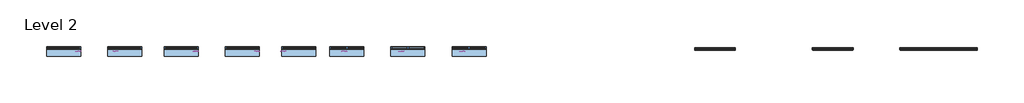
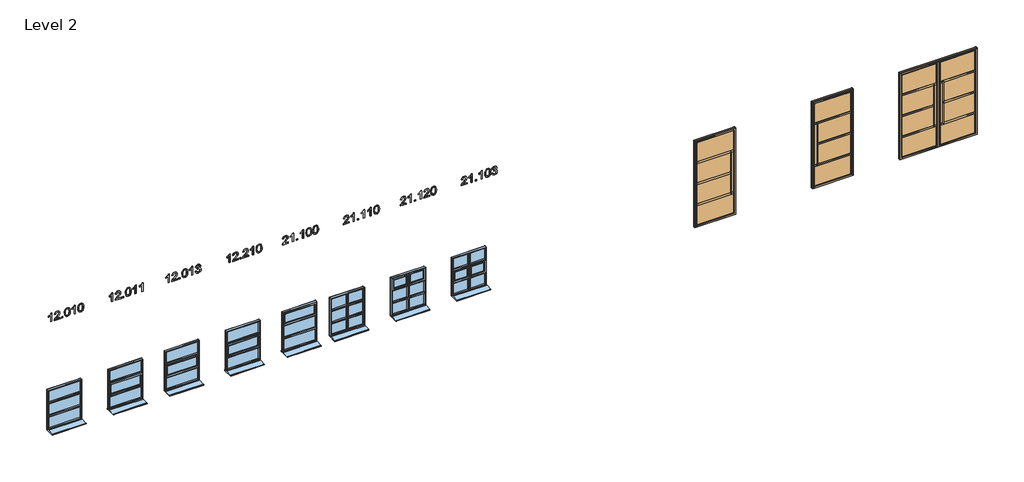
# One storey: 8 proxies, 8 windows, 3 doors.
"""IFC4 building model written with IfcOpenShell, lengths in millimetres."""

from ifc_helpers import new_model, si_unit, frame, origin, place, context, project, spatial, polyline, outline, extrude, transform, mapped, element, save
from components import double_door_94a0a6c9, lefthung_39af8336, right_hung_7c5ced86, standard_2_3150987d, standard_2_8fc163e1, standard_2_56b7443b, standard_2_651a060c, standard_2_2b1a771f, standard_2_61d9b5e6

model = new_model("IFC4")

# Units and contexts
model_context = context("Model", 3, world=origin())
ifc_project = project(units=[si_unit("LENGTHUNIT", "METRE", prefix="MILLI")], contexts=[model_context])

# Site, building, storey
site = spatial("IfcSite", under=ifc_project)
building = spatial("IfcBuilding", under=site)
storey = spatial("IfcBuildingStorey", under=building, Name="Level 2", Elevation=3000.0)

# Proxies
placement = place(None, origin())
element("IfcBuildingElementProxy", 1, Name="200mm Arial", ObjectType="200mm Arial", at=placement, inside=storey, context=model_context, shape_type="SweptSolid", body=[
    extrude(outline(polyline([(5954.6392597, -171154.3903213), (6155.55188, -171154.3903213), (6155.55188, -171170.5771291), (6142.3939673, -171179.4492165), (6128.8191217, -171192.9198289), (6105.3237249, -171229.7325539), (6081.5830735, -171229.7325539), (6094.2627396, -171203.2941012), (6111.2098368, -171179.5043988), (5954.6392597, -171179.5043988), (5954.6392597, -171154.3903213)])), frame((0.0, 24202.6264647, 0.0), z_axis=(0.0, 1.0, 0.0), x_axis=(0.0, 0.0, 1.0)), (0.0, 0.0, 1.0), 10.0),
    extrude(outline(polyline([(5979.7533372, -170966.0347398), (5979.7533372, -171064.6761654), (5992.5311052, -171053.3454), (6016.6886895, -171024.4544006), (6051.0979188, -170988.4755415), (6075.721487, -170973.6376343), (6099.5357149, -170969.1739995), (6121.4369563, -170973.3126719), (6139.4631741, -170985.7286893), (6151.5297035, -171005.2448291), (6155.55188, -171030.6838691), (6151.9343737, -171055.938968), (6141.0818548, -171075.4918961), (6123.3376799, -171088.6559401), (6099.0452055, -171094.7443872), (6095.9059458, -171069.6303096), (6110.3391828, -171066.9141142), (6121.265278, -171059.0598336), (6128.1446714, -171046.8890709), (6130.4378025, -171031.2234293), (6128.0894891, -171016.3058144), (6121.0445488, -171004.5151965), (6110.5905688, -170996.8448569), (6098.0151359, -170994.288077), (6083.9865692, -170996.998141), (6069.565595, -171005.1283331), (6027.7251494, -171048.4893576), (5998.6134208, -171079.9310055), (5971.9542389, -171095.1858455), (5954.6392597, -171097.8836468), (5954.6392597, -170966.0347398), (5979.7533372, -170966.0347398)])), frame((0.0, 24202.6264647, 0.0), z_axis=(0.0, 1.0, 0.0), x_axis=(0.0, 0.0, 1.0)), (0.0, 0.0, 1.0), 10.0),
    extrude(outline(polyline([(-170903.2495459, 24202.6264647), (-170928.3636235, 24202.6264647), (-170928.3636235, 24212.6264647), (-170903.2495459, 24212.6264647), (-170903.2495459, 24202.6264647)])), frame((0.0, 0.0, 5954.6392597), z_axis=(0.0, 0.0, 1.0), x_axis=(1.0, 0.0, 0.0)), (0.0, 0.0, 1.0), 25.1140775),
    extrude(outline(polyline([(6053.4768891, -170862.4391699), (6004.6098974, -170857.4359748), (5985.7590108, -170851.1819809), (5970.6298637, -170842.4263894), (5956.2824659, -170822.6098126), (5951.5, -170796.5147164), (5954.2529836, -170776.2137616), (5962.5119344, -170759.7510423), (5976.3688229, -170747.0161939), (5995.9156196, -170737.8988518), (6021.5018123, -170732.4174101), (6053.4768891, -170730.5902629), (6100.6884118, -170735.1519996), (6130.413277, -170746.9242234), (6141.1738253, -170755.5939758), (6149.0771569, -170767.1822587), (6153.9331992, -170781.0391471), (6155.55188, -170796.5147164), (6152.8172905, -170816.7053066), (6144.613522, -170833.1312377), (6130.8118158, -170845.8844802), (6111.2834132, -170855.0570046), (6085.6359068, -170860.5936286), (6053.4768891, -170862.4391699)]), holes=[polyline([(6053.52594, -170837.3250924), (6092.5214315, -170834.2839346), (6116.9978469, -170825.1604611), (6127.0778136, -170812.5298459), (6130.4378025, -170796.809022), (6126.6240924, -170780.2052813), (6115.1829624, -170767.0841568), (6092.1412868, -170758.5492945), (6053.52594, -170755.7043404), (6014.0828587, -170758.6473964), (5991.20673, -170767.4765642), (5980.2622407, -170780.6222142), (5976.6140775, -170796.5147164), (5980.2499779, -170812.4072186), (5991.1576791, -170825.5528686), (6014.0215451, -170834.3820364), (6053.52594, -170837.3250924)])]), frame((0.0, 24202.6264647, 0.0), z_axis=(0.0, 1.0, 0.0), x_axis=(0.0, 0.0, 1.0)), (0.0, 0.0, 1.0), 10.0),
    extrude(outline(polyline([(5954.6392597, -170614.4376543), (6155.55188, -170614.4376543), (6155.55188, -170630.624462), (6142.3939673, -170639.4965495), (6128.8191217, -170652.9671619), (6105.3237249, -170689.7798869), (6081.5830735, -170689.7798869), (6094.2627396, -170663.3414341), (6111.2098368, -170639.5517318), (5954.6392597, -170639.5517318), (5954.6392597, -170614.4376543)])), frame((0.0, 24202.6264647, 0.0), z_axis=(0.0, 1.0, 0.0), x_axis=(0.0, 0.0, 1.0)), (0.0, 0.0, 1.0), 10.0),
    extrude(outline(polyline([(6053.4768891, -170554.7917201), (6004.6098974, -170549.788525), (5985.7590108, -170543.534531), (5970.6298637, -170534.7789396), (5956.2824659, -170514.9623628), (5951.5, -170488.8672666), (5954.2529836, -170468.5663118), (5962.5119344, -170452.1035925), (5976.3688229, -170439.3687441), (5995.9156196, -170430.251402), (6021.5018123, -170424.7699603), (6053.4768891, -170422.942813), (6100.6884118, -170427.5045498), (6130.413277, -170439.2767736), (6141.1738253, -170447.946526), (6149.0771569, -170459.5348088), (6153.9331992, -170473.3916973), (6155.55188, -170488.8672666), (6152.8172905, -170509.0578567), (6144.613522, -170525.4837878), (6130.8118158, -170538.2370303), (6111.2834132, -170547.4095547), (6085.6359068, -170552.9461788), (6053.4768891, -170554.7917201)]), holes=[polyline([(6053.52594, -170529.6776426), (6092.5214315, -170526.6364847), (6116.9978469, -170517.5130113), (6127.0778136, -170504.8823961), (6130.4378025, -170489.1615722), (6126.6240924, -170472.5578314), (6115.1829624, -170459.436707), (6092.1412868, -170450.9018447), (6053.52594, -170448.0568906), (6014.0828587, -170450.9999465), (5991.20673, -170459.8291144), (5980.2622407, -170472.9747644), (5976.6140775, -170488.8672666), (5980.2499779, -170504.7597688), (5991.1576791, -170517.9054187), (6014.0215451, -170526.7345866), (6053.52594, -170529.6776426)])]), frame((0.0, 24202.6264647, 0.0), z_axis=(0.0, 1.0, 0.0), x_axis=(0.0, 0.0, 1.0)), (0.0, 0.0, 1.0), 10.0),
])
element("IfcBuildingElementProxy", 2, Name="200mm Arial", ObjectType="200mm Arial", at=placement, inside=storey, context=model_context, shape_type="SweptSolid", body=[
    extrude(outline(polyline([(5954.6392597, -169754.3903213), (6155.55188, -169754.3903213), (6155.55188, -169770.5771291), (6142.3939673, -169779.4492165), (6128.8191217, -169792.9198289), (6105.3237249, -169829.7325539), (6081.5830735, -169829.7325539), (6094.2627396, -169803.2941012), (6111.2098368, -169779.5043988), (5954.6392597, -169779.5043988), (5954.6392597, -169754.3903213)])), frame((0.0, 24202.6264647, 0.0), z_axis=(0.0, 1.0, 0.0), x_axis=(0.0, 0.0, 1.0)), (0.0, 0.0, 1.0), 10.0),
    extrude(outline(polyline([(5979.7533372, -169566.0347398), (5979.7533372, -169664.6761654), (5992.5311052, -169653.3454), (6016.6886895, -169624.4544006), (6051.0979188, -169588.4755415), (6075.721487, -169573.6376343), (6099.5357149, -169569.1739995), (6121.4369563, -169573.3126719), (6139.4631741, -169585.7286893), (6151.5297035, -169605.2448291), (6155.55188, -169630.6838691), (6151.9343737, -169655.938968), (6141.0818548, -169675.4918961), (6123.3376799, -169688.6559401), (6099.0452055, -169694.7443872), (6095.9059458, -169669.6303096), (6110.3391828, -169666.9141142), (6121.265278, -169659.0598336), (6128.1446714, -169646.8890709), (6130.4378025, -169631.2234293), (6128.0894891, -169616.3058144), (6121.0445488, -169604.5151965), (6110.5905688, -169596.8448569), (6098.0151359, -169594.288077), (6083.9865692, -169596.998141), (6069.565595, -169605.1283331), (6027.7251494, -169648.4893576), (5998.6134208, -169679.9310055), (5971.9542389, -169695.1858455), (5954.6392597, -169697.8836468), (5954.6392597, -169566.0347398), (5979.7533372, -169566.0347398)])), frame((0.0, 24202.6264647, 0.0), z_axis=(0.0, 1.0, 0.0), x_axis=(0.0, 0.0, 1.0)), (0.0, 0.0, 1.0), 10.0),
    extrude(outline(polyline([(-169503.2495459, 24202.6264647), (-169528.3636235, 24202.6264647), (-169528.3636235, 24212.6264647), (-169503.2495459, 24212.6264647), (-169503.2495459, 24202.6264647)])), frame((0.0, 0.0, 5954.6392597), z_axis=(0.0, 0.0, 1.0), x_axis=(1.0, 0.0, 0.0)), (0.0, 0.0, 1.0), 25.1140775),
    extrude(outline(polyline([(6053.4768891, -169462.4391699), (6004.6098974, -169457.4359748), (5985.7590108, -169451.1819809), (5970.6298637, -169442.4263894), (5956.2824659, -169422.6098126), (5951.5, -169396.5147164), (5954.2529836, -169376.2137616), (5962.5119344, -169359.7510423), (5976.3688229, -169347.0161939), (5995.9156196, -169337.8988518), (6021.5018123, -169332.4174101), (6053.4768891, -169330.5902629), (6100.6884118, -169335.1519996), (6130.413277, -169346.9242234), (6141.1738253, -169355.5939758), (6149.0771569, -169367.1822587), (6153.9331992, -169381.0391471), (6155.55188, -169396.5147164), (6152.8172905, -169416.7053066), (6144.613522, -169433.1312377), (6130.8118158, -169445.8844802), (6111.2834132, -169455.0570046), (6085.6359068, -169460.5936286), (6053.4768891, -169462.4391699)]), holes=[polyline([(6053.52594, -169437.3250924), (6092.5214315, -169434.2839346), (6116.9978469, -169425.1604611), (6127.0778136, -169412.5298459), (6130.4378025, -169396.809022), (6126.6240924, -169380.2052813), (6115.1829624, -169367.0841568), (6092.1412868, -169358.5492945), (6053.52594, -169355.7043404), (6014.0828587, -169358.6473964), (5991.20673, -169367.4765642), (5980.2622407, -169380.6222142), (5976.6140775, -169396.5147164), (5980.2499779, -169412.4072186), (5991.1576791, -169425.5528686), (6014.0215451, -169434.3820364), (6053.52594, -169437.3250924)])]), frame((0.0, 24202.6264647, 0.0), z_axis=(0.0, 1.0, 0.0), x_axis=(0.0, 0.0, 1.0)), (0.0, 0.0, 1.0), 10.0),
    extrude(outline(polyline([(5954.6392597, -169214.4376543), (6155.55188, -169214.4376543), (6155.55188, -169230.624462), (6142.3939673, -169239.4965495), (6128.8191217, -169252.9671619), (6105.3237249, -169289.7798869), (6081.5830735, -169289.7798869), (6094.2627396, -169263.3414341), (6111.2098368, -169239.5517318), (5954.6392597, -169239.5517318), (5954.6392597, -169214.4376543)])), frame((0.0, 24202.6264647, 0.0), z_axis=(0.0, 1.0, 0.0), x_axis=(0.0, 0.0, 1.0)), (0.0, 0.0, 1.0), 10.0),
    extrude(outline(polyline([(5954.6392597, -169060.6139293), (6155.55188, -169060.6139293), (6155.55188, -169076.8007371), (6142.3939673, -169085.6728246), (6128.8191217, -169099.143437), (6105.3237249, -169135.9561619), (6081.5830735, -169135.9561619), (6094.2627396, -169109.5177092), (6111.2098368, -169085.7280069), (5954.6392597, -169085.7280069), (5954.6392597, -169060.6139293)])), frame((0.0, 24202.6264647, 0.0), z_axis=(0.0, 1.0, 0.0), x_axis=(0.0, 0.0, 1.0)), (0.0, 0.0, 1.0), 10.0),
])
element("IfcBuildingElementProxy", 3, Name="200mm Arial", ObjectType="200mm Arial", at=placement, inside=storey, context=model_context, shape_type="SweptSolid", body=[
    extrude(outline(polyline([(5954.6392597, -168454.3903213), (6155.55188, -168454.3903213), (6155.55188, -168470.5771291), (6142.3939673, -168479.4492165), (6128.8191217, -168492.9198289), (6105.3237249, -168529.7325539), (6081.5830735, -168529.7325539), (6094.2627396, -168503.2941012), (6111.2098368, -168479.5043988), (5954.6392597, -168479.5043988), (5954.6392597, -168454.3903213)])), frame((0.0, 24202.6264647, 0.0), z_axis=(0.0, 1.0, 0.0), x_axis=(0.0, 0.0, 1.0)), (0.0, 0.0, 1.0), 10.0),
    extrude(outline(polyline([(5979.7533372, -168266.0347398), (5979.7533372, -168364.6761654), (5992.5311052, -168353.3454), (6016.6886895, -168324.4544006), (6051.0979188, -168288.4755415), (6075.721487, -168273.6376343), (6099.5357149, -168269.1739995), (6121.4369563, -168273.3126719), (6139.4631741, -168285.7286893), (6151.5297035, -168305.2448291), (6155.55188, -168330.6838691), (6151.9343737, -168355.938968), (6141.0818548, -168375.4918961), (6123.3376799, -168388.6559401), (6099.0452055, -168394.7443872), (6095.9059458, -168369.6303096), (6110.3391828, -168366.9141142), (6121.265278, -168359.0598336), (6128.1446714, -168346.8890709), (6130.4378025, -168331.2234293), (6128.0894891, -168316.3058144), (6121.0445488, -168304.5151965), (6110.5905688, -168296.8448569), (6098.0151359, -168294.288077), (6083.9865692, -168296.998141), (6069.565595, -168305.1283331), (6027.7251494, -168348.4893576), (5998.6134208, -168379.9310055), (5971.9542389, -168395.1858455), (5954.6392597, -168397.8836468), (5954.6392597, -168266.0347398), (5979.7533372, -168266.0347398)])), frame((0.0, 24202.6264647, 0.0), z_axis=(0.0, 1.0, 0.0), x_axis=(0.0, 0.0, 1.0)), (0.0, 0.0, 1.0), 10.0),
    extrude(outline(polyline([(-168203.2495459, 24202.6264647), (-168228.3636235, 24202.6264647), (-168228.3636235, 24212.6264647), (-168203.2495459, 24212.6264647), (-168203.2495459, 24202.6264647)])), frame((0.0, 0.0, 5954.6392597), z_axis=(0.0, 0.0, 1.0), x_axis=(1.0, 0.0, 0.0)), (0.0, 0.0, 1.0), 25.1140775),
    extrude(outline(polyline([(6053.4768891, -168162.4391699), (6004.6098974, -168157.4359748), (5985.7590108, -168151.1819809), (5970.6298637, -168142.4263894), (5956.2824659, -168122.6098126), (5951.5, -168096.5147164), (5954.2529836, -168076.2137616), (5962.5119344, -168059.7510423), (5976.3688229, -168047.0161939), (5995.9156196, -168037.8988518), (6021.5018123, -168032.4174101), (6053.4768891, -168030.5902629), (6100.6884118, -168035.1519996), (6130.413277, -168046.9242234), (6141.1738253, -168055.5939758), (6149.0771569, -168067.1822587), (6153.9331992, -168081.0391471), (6155.55188, -168096.5147164), (6152.8172905, -168116.7053066), (6144.613522, -168133.1312377), (6130.8118158, -168145.8844802), (6111.2834132, -168155.0570046), (6085.6359068, -168160.5936286), (6053.4768891, -168162.4391699)]), holes=[polyline([(6053.52594, -168137.3250924), (6092.5214315, -168134.2839346), (6116.9978469, -168125.1604611), (6127.0778136, -168112.5298459), (6130.4378025, -168096.809022), (6126.6240924, -168080.2052813), (6115.1829624, -168067.0841568), (6092.1412868, -168058.5492945), (6053.52594, -168055.7043404), (6014.0828587, -168058.6473964), (5991.20673, -168067.4765642), (5980.2622407, -168080.6222142), (5976.6140775, -168096.5147164), (5980.2499779, -168112.4072186), (5991.1576791, -168125.5528686), (6014.0215451, -168134.3820364), (6053.52594, -168137.3250924)])]), frame((0.0, 24202.6264647, 0.0), z_axis=(0.0, 1.0, 0.0), x_axis=(0.0, 0.0, 1.0)), (0.0, 0.0, 1.0), 10.0),
    extrude(outline(polyline([(5954.6392597, -167914.4376543), (6155.55188, -167914.4376543), (6155.55188, -167930.624462), (6142.3939673, -167939.4965495), (6128.8191217, -167952.9671619), (6105.3237249, -167989.7798869), (6081.5830735, -167989.7798869), (6094.2627396, -167963.3414341), (6111.2098368, -167939.5517318), (5954.6392597, -167939.5517318), (5954.6392597, -167914.4376543)])), frame((0.0, 24202.6264647, 0.0), z_axis=(0.0, 1.0, 0.0), x_axis=(0.0, 0.0, 1.0)), (0.0, 0.0, 1.0), 10.0),
    extrude(outline(polyline([(6008.0066745, -167854.7917201), (5985.3083554, -167848.5745144), (5967.2453494, -167834.8279905), (5955.4363373, -167815.0604646), (5951.5, -167790.7802529), (5956.1107877, -167763.93713), (5969.9431507, -167742.1707786), (5990.3973896, -167727.7498044), (6014.873805, -167722.942813), (6032.8509719, -167725.3463087), (6047.5417262, -167732.5567958), (6058.3574569, -167744.2063924), (6064.7095526, -167759.9272163), (6071.956828, -167747.9587887), (6081.3378188, -167739.3258245), (6092.3497532, -167734.1019002), (6104.4898591, -167732.3605921), (6117.5190131, -167734.1938707), (6129.8246658, -167739.6937065), (6140.5055064, -167748.6577645), (6148.6602239, -167760.8837095), (6153.828966, -167775.3843914), (6155.55188, -167791.1726604), (6152.057001, -167813.0984273), (6141.5723642, -167831.1001196), (6124.7356315, -167844.2580323), (6102.1844652, -167851.6524604), (6099.0452055, -167826.5383829), (6112.7794667, -167822.0870107), (6122.5896532, -167814.2265988), (6128.4757651, -167803.459919), (6130.4378025, -167790.2897436), (6128.4941592, -167777.1440937), (6122.6632296, -167766.6471941), (6113.8647186, -167759.7678007), (6103.0183311, -167757.4746696), (6089.9953085, -167760.6384548), (6080.8473095, -167770.1298103), (6075.4394442, -167783.5820286), (6073.6368224, -167798.6284022), (6073.931128, -167802.6505787), (6048.8170505, -167805.4464818), (6051.5639027, -167787.837197), (6048.9948601, -167772.0427967), (6041.2877323, -167759.2895542), (6029.6565299, -167750.8650565), (6015.3152634, -167748.0568906), (6000.2075762, -167750.8895819), (5987.7486393, -167759.387656), (5979.397718, -167772.6804588), (5976.6140775, -167789.8973362), (5978.6374285, -167804.5696964), (5984.7074814, -167815.8207541), (5995.3637966, -167824.0551794), (6011.1459342, -167829.6776426), (6008.0066745, -167854.7917201)])), frame((0.0, 24202.6264647, 0.0), z_axis=(0.0, 1.0, 0.0), x_axis=(0.0, 0.0, 1.0)), (0.0, 0.0, 1.0), 10.0),
])
element("IfcBuildingElementProxy", 4, Name="200mm Arial", ObjectType="200mm Arial", at=placement, inside=storey, context=model_context, shape_type="SweptSolid", body=[
    extrude(outline(polyline([(5954.6392597, -167054.3903213), (6155.55188, -167054.3903213), (6155.55188, -167070.5771291), (6142.3939673, -167079.4492165), (6128.8191217, -167092.9198289), (6105.3237249, -167129.7325539), (6081.5830735, -167129.7325539), (6094.2627396, -167103.2941012), (6111.2098368, -167079.5043988), (5954.6392597, -167079.5043988), (5954.6392597, -167054.3903213)])), frame((0.0, 24202.6264647, 0.0), z_axis=(0.0, 1.0, 0.0), x_axis=(0.0, 0.0, 1.0)), (0.0, 0.0, 1.0), 10.0),
    extrude(outline(polyline([(5979.7533372, -166866.0347398), (5979.7533372, -166964.6761654), (5992.5311052, -166953.3454), (6016.6886895, -166924.4544006), (6051.0979188, -166888.4755415), (6075.721487, -166873.6376343), (6099.5357149, -166869.1739995), (6121.4369563, -166873.3126719), (6139.4631741, -166885.7286893), (6151.5297035, -166905.2448291), (6155.55188, -166930.6838691), (6151.9343737, -166955.938968), (6141.0818548, -166975.4918961), (6123.3376799, -166988.6559401), (6099.0452055, -166994.7443872), (6095.9059458, -166969.6303096), (6110.3391828, -166966.9141142), (6121.265278, -166959.0598336), (6128.1446714, -166946.8890709), (6130.4378025, -166931.2234293), (6128.0894891, -166916.3058144), (6121.0445488, -166904.5151965), (6110.5905688, -166896.8448569), (6098.0151359, -166894.288077), (6083.9865692, -166896.998141), (6069.565595, -166905.1283331), (6027.7251494, -166948.4893576), (5998.6134208, -166979.9310055), (5971.9542389, -166995.1858455), (5954.6392597, -166997.8836468), (5954.6392597, -166866.0347398), (5979.7533372, -166866.0347398)])), frame((0.0, 24202.6264647, 0.0), z_axis=(0.0, 1.0, 0.0), x_axis=(0.0, 0.0, 1.0)), (0.0, 0.0, 1.0), 10.0),
    extrude(outline(polyline([(-166803.2495459, 24202.6264647), (-166828.3636235, 24202.6264647), (-166828.3636235, 24212.6264647), (-166803.2495459, 24212.6264647), (-166803.2495459, 24202.6264647)])), frame((0.0, 0.0, 5954.6392597), z_axis=(0.0, 0.0, 1.0), x_axis=(1.0, 0.0, 0.0)), (0.0, 0.0, 1.0), 25.1140775),
    extrude(outline(polyline([(5979.7533372, -166633.7295226), (5979.7533372, -166732.3709482), (5992.5311052, -166721.0401827), (6016.6886895, -166692.1491834), (6051.0979188, -166656.1703243), (6075.721487, -166641.3324171), (6099.5357149, -166636.8687822), (6121.4369563, -166641.0074547), (6139.4631741, -166653.423472), (6151.5297035, -166672.9396119), (6155.55188, -166698.3786518), (6151.9343737, -166723.6337508), (6141.0818548, -166743.1866789), (6123.3376799, -166756.3507229), (6099.0452055, -166762.4391699), (6095.9059458, -166737.3250924), (6110.3391828, -166734.608897), (6121.265278, -166726.7546164), (6128.1446714, -166714.5838537), (6130.4378025, -166698.9182121), (6128.0894891, -166684.0005972), (6121.0445488, -166672.2099793), (6110.5905688, -166664.5396397), (6098.0151359, -166661.9828598), (6083.9865692, -166664.6929238), (6069.565595, -166672.8231159), (6027.7251494, -166716.1841404), (5998.6134208, -166747.6257883), (5971.9542389, -166762.8806283), (5954.6392597, -166765.5784296), (5954.6392597, -166633.7295226), (5979.7533372, -166633.7295226)])), frame((0.0, 24202.6264647, 0.0), z_axis=(0.0, 1.0, 0.0), x_axis=(0.0, 0.0, 1.0)), (0.0, 0.0, 1.0), 10.0),
    extrude(outline(polyline([(5954.6392597, -166514.4376543), (6155.55188, -166514.4376543), (6155.55188, -166530.624462), (6142.3939673, -166539.4965495), (6128.8191217, -166552.9671619), (6105.3237249, -166589.7798869), (6081.5830735, -166589.7798869), (6094.2627396, -166563.3414341), (6111.2098368, -166539.5517318), (5954.6392597, -166539.5517318), (5954.6392597, -166514.4376543)])), frame((0.0, 24202.6264647, 0.0), z_axis=(0.0, 1.0, 0.0), x_axis=(0.0, 0.0, 1.0)), (0.0, 0.0, 1.0), 10.0),
    extrude(outline(polyline([(6053.4768891, -166454.7917201), (6004.6098974, -166449.788525), (5985.7590108, -166443.534531), (5970.6298637, -166434.7789396), (5956.2824659, -166414.9623628), (5951.5, -166388.8672666), (5954.2529836, -166368.5663118), (5962.5119344, -166352.1035925), (5976.3688229, -166339.3687441), (5995.9156196, -166330.251402), (6021.5018123, -166324.7699603), (6053.4768891, -166322.942813), (6100.6884118, -166327.5045498), (6130.413277, -166339.2767736), (6141.1738253, -166347.946526), (6149.0771569, -166359.5348088), (6153.9331992, -166373.3916973), (6155.55188, -166388.8672666), (6152.8172905, -166409.0578567), (6144.613522, -166425.4837878), (6130.8118158, -166438.2370303), (6111.2834132, -166447.4095547), (6085.6359068, -166452.9461788), (6053.4768891, -166454.7917201)]), holes=[polyline([(6053.52594, -166429.6776426), (6092.5214315, -166426.6364847), (6116.9978469, -166417.5130113), (6127.0778136, -166404.8823961), (6130.4378025, -166389.1615722), (6126.6240924, -166372.5578314), (6115.1829624, -166359.436707), (6092.1412868, -166350.9018447), (6053.52594, -166348.0568906), (6014.0828587, -166350.9999465), (5991.20673, -166359.8291144), (5980.2622407, -166372.9747644), (5976.6140775, -166388.8672666), (5980.2499779, -166404.7597688), (5991.1576791, -166417.9054187), (6014.0215451, -166426.7345866), (6053.52594, -166429.6776426)])]), frame((0.0, 24202.6264647, 0.0), z_axis=(0.0, 1.0, 0.0), x_axis=(0.0, 0.0, 1.0)), (0.0, 0.0, 1.0), 10.0),
])
element("IfcBuildingElementProxy", 5, Name="200mm Arial", ObjectType="200mm Arial", at=placement, inside=storey, context=model_context, shape_type="SweptSolid", body=[
    extrude(outline(polyline([(5979.7533372, -165719.8584647), (5979.7533372, -165818.4998903), (5992.5311052, -165807.1691249), (6016.6886895, -165778.2781255), (6051.0979188, -165742.2992664), (6075.721487, -165727.4613593), (6099.5357149, -165722.9977244), (6121.4369563, -165727.1363968), (6139.4631741, -165739.5524142), (6151.5297035, -165759.068554), (6155.55188, -165784.507594), (6151.9343737, -165809.7626929), (6141.0818548, -165829.315621), (6123.3376799, -165842.4796651), (6099.0452055, -165848.5681121), (6095.9059458, -165823.4540345), (6110.3391828, -165820.7378391), (6121.265278, -165812.8835585), (6128.1446714, -165800.7127959), (6130.4378025, -165785.0471542), (6128.0894891, -165770.1295393), (6121.0445488, -165758.3389214), (6110.5905688, -165750.6685818), (6098.0151359, -165748.1118019), (6083.9865692, -165750.821866), (6069.565595, -165758.952058), (6027.7251494, -165802.3130825), (5998.6134208, -165833.7547304), (5971.9542389, -165849.0095705), (5954.6392597, -165851.7073718), (5954.6392597, -165719.8584647), (5979.7533372, -165719.8584647)])), frame((0.0, 24202.6264647, 0.0), z_axis=(0.0, 1.0, 0.0), x_axis=(0.0, 0.0, 1.0)), (0.0, 0.0, 1.0), 10.0),
    extrude(outline(polyline([(5954.6392597, -165600.5665964), (6155.55188, -165600.5665964), (6155.55188, -165616.7534042), (6142.3939673, -165625.6254916), (6128.8191217, -165639.096104), (6105.3237249, -165675.908829), (6081.5830735, -165675.908829), (6094.2627396, -165649.4703763), (6111.2098368, -165625.6806739), (5954.6392597, -165625.6806739), (5954.6392597, -165600.5665964)])), frame((0.0, 24202.6264647, 0.0), z_axis=(0.0, 1.0, 0.0), x_axis=(0.0, 0.0, 1.0)), (0.0, 0.0, 1.0), 10.0),
    extrude(outline(polyline([(-165503.2495459, 24202.6264647), (-165528.3636235, 24202.6264647), (-165528.3636235, 24212.6264647), (-165503.2495459, 24212.6264647), (-165503.2495459, 24202.6264647)])), frame((0.0, 0.0, 5954.6392597), z_axis=(0.0, 0.0, 1.0), x_axis=(1.0, 0.0, 0.0)), (0.0, 0.0, 1.0), 25.1140775),
    extrude(outline(polyline([(5954.6392597, -165368.2613792), (6155.55188, -165368.2613792), (6155.55188, -165384.448187), (6142.3939673, -165393.3202744), (6128.8191217, -165406.7908868), (6105.3237249, -165443.6036118), (6081.5830735, -165443.6036118), (6094.2627396, -165417.1651591), (6111.2098368, -165393.3754567), (5954.6392597, -165393.3754567), (5954.6392597, -165368.2613792)])), frame((0.0, 24202.6264647, 0.0), z_axis=(0.0, 1.0, 0.0), x_axis=(0.0, 0.0, 1.0)), (0.0, 0.0, 1.0), 10.0),
    extrude(outline(polyline([(6053.4768891, -165308.615445), (6004.6098974, -165303.6122499), (5985.7590108, -165297.358256), (5970.6298637, -165288.6026645), (5956.2824659, -165268.7860877), (5951.5, -165242.6909915), (5954.2529836, -165222.3900367), (5962.5119344, -165205.9273174), (5976.3688229, -165193.192469), (5995.9156196, -165184.0751269), (6021.5018123, -165178.5936852), (6053.4768891, -165176.7665379), (6100.6884118, -165181.3282747), (6130.413277, -165193.1004985), (6141.1738253, -165201.7702509), (6149.0771569, -165213.3585337), (6153.9331992, -165227.2154222), (6155.55188, -165242.6909915), (6152.8172905, -165262.8815817), (6144.613522, -165279.3075127), (6130.8118158, -165292.0607552), (6111.2834132, -165301.2332796), (6085.6359068, -165306.7699037), (6053.4768891, -165308.615445)]), holes=[polyline([(6053.52594, -165283.5013675), (6092.5214315, -165280.4602097), (6116.9978469, -165271.3367362), (6127.0778136, -165258.706121), (6130.4378025, -165242.9852971), (6126.6240924, -165226.3815564), (6115.1829624, -165213.2604319), (6092.1412868, -165204.7255696), (6053.52594, -165201.8806155), (6014.0828587, -165204.8236714), (5991.20673, -165213.6528393), (5980.2622407, -165226.7984893), (5976.6140775, -165242.6909915), (5980.2499779, -165258.5834937), (5991.1576791, -165271.7291436), (6014.0215451, -165280.5583115), (6053.52594, -165283.5013675)])]), frame((0.0, 24202.6264647, 0.0), z_axis=(0.0, 1.0, 0.0), x_axis=(0.0, 0.0, 1.0)), (0.0, 0.0, 1.0), 10.0),
    extrude(outline(polyline([(6053.4768891, -165154.7917201), (6004.6098974, -165149.788525), (5985.7590108, -165143.534531), (5970.6298637, -165134.7789396), (5956.2824659, -165114.9623628), (5951.5, -165088.8672666), (5954.2529836, -165068.5663118), (5962.5119344, -165052.1035925), (5976.3688229, -165039.3687441), (5995.9156196, -165030.251402), (6021.5018123, -165024.7699603), (6053.4768891, -165022.942813), (6100.6884118, -165027.5045498), (6130.413277, -165039.2767736), (6141.1738253, -165047.946526), (6149.0771569, -165059.5348088), (6153.9331992, -165073.3916973), (6155.55188, -165088.8672666), (6152.8172905, -165109.0578567), (6144.613522, -165125.4837878), (6130.8118158, -165138.2370303), (6111.2834132, -165147.4095547), (6085.6359068, -165152.9461788), (6053.4768891, -165154.7917201)]), holes=[polyline([(6053.52594, -165129.6776426), (6092.5214315, -165126.6364847), (6116.9978469, -165117.5130113), (6127.0778136, -165104.8823961), (6130.4378025, -165089.1615722), (6126.6240924, -165072.5578314), (6115.1829624, -165059.436707), (6092.1412868, -165050.9018447), (6053.52594, -165048.0568906), (6014.0828587, -165050.9999465), (5991.20673, -165059.8291144), (5980.2622407, -165072.9747644), (5976.6140775, -165088.8672666), (5980.2499779, -165104.7597688), (5991.1576791, -165117.9054187), (6014.0215451, -165126.7345866), (6053.52594, -165129.6776426)])]), frame((0.0, 24202.6264647, 0.0), z_axis=(0.0, 1.0, 0.0), x_axis=(0.0, 0.0, 1.0)), (0.0, 0.0, 1.0), 10.0),
])
element("IfcBuildingElementProxy", 6, Name="200mm Arial", ObjectType="200mm Arial", at=placement, inside=storey, context=model_context, shape_type="SweptSolid", body=[
    extrude(outline(polyline([(5979.7533372, -164319.8584647), (5979.7533372, -164418.4998903), (5992.5311052, -164407.1691249), (6016.6886895, -164378.2781255), (6051.0979188, -164342.2992664), (6075.721487, -164327.4613593), (6099.5357149, -164322.9977244), (6121.4369563, -164327.1363968), (6139.4631741, -164339.5524142), (6151.5297035, -164359.068554), (6155.55188, -164384.507594), (6151.9343737, -164409.7626929), (6141.0818548, -164429.315621), (6123.3376799, -164442.4796651), (6099.0452055, -164448.5681121), (6095.9059458, -164423.4540345), (6110.3391828, -164420.7378391), (6121.265278, -164412.8835585), (6128.1446714, -164400.7127959), (6130.4378025, -164385.0471542), (6128.0894891, -164370.1295393), (6121.0445488, -164358.3389214), (6110.5905688, -164350.6685818), (6098.0151359, -164348.1118019), (6083.9865692, -164350.821866), (6069.565595, -164358.952058), (6027.7251494, -164402.3130825), (5998.6134208, -164433.7547304), (5971.9542389, -164449.0095705), (5954.6392597, -164451.7073718), (5954.6392597, -164319.8584647), (5979.7533372, -164319.8584647)])), frame((0.0, 24202.6264647, 0.0), z_axis=(0.0, 1.0, 0.0), x_axis=(0.0, 0.0, 1.0)), (0.0, 0.0, 1.0), 10.0),
    extrude(outline(polyline([(5954.6392597, -164200.5665964), (6155.55188, -164200.5665964), (6155.55188, -164216.7534042), (6142.3939673, -164225.6254916), (6128.8191217, -164239.096104), (6105.3237249, -164275.908829), (6081.5830735, -164275.908829), (6094.2627396, -164249.4703763), (6111.2098368, -164225.6806739), (5954.6392597, -164225.6806739), (5954.6392597, -164200.5665964)])), frame((0.0, 24202.6264647, 0.0), z_axis=(0.0, 1.0, 0.0), x_axis=(0.0, 0.0, 1.0)), (0.0, 0.0, 1.0), 10.0),
    extrude(outline(polyline([(-164103.2495459, 24202.6264647), (-164128.3636235, 24202.6264647), (-164128.3636235, 24212.6264647), (-164103.2495459, 24212.6264647), (-164103.2495459, 24202.6264647)])), frame((0.0, 0.0, 5954.6392597), z_axis=(0.0, 0.0, 1.0), x_axis=(1.0, 0.0, 0.0)), (0.0, 0.0, 1.0), 25.1140775),
    extrude(outline(polyline([(5954.6392597, -163968.2613792), (6155.55188, -163968.2613792), (6155.55188, -163984.448187), (6142.3939673, -163993.3202744), (6128.8191217, -164006.7908868), (6105.3237249, -164043.6036118), (6081.5830735, -164043.6036118), (6094.2627396, -164017.1651591), (6111.2098368, -163993.3754567), (5954.6392597, -163993.3754567), (5954.6392597, -163968.2613792)])), frame((0.0, 24202.6264647, 0.0), z_axis=(0.0, 1.0, 0.0), x_axis=(0.0, 0.0, 1.0)), (0.0, 0.0, 1.0), 10.0),
    extrude(outline(polyline([(5954.6392597, -163814.4376543), (6155.55188, -163814.4376543), (6155.55188, -163830.624462), (6142.3939673, -163839.4965495), (6128.8191217, -163852.9671619), (6105.3237249, -163889.7798869), (6081.5830735, -163889.7798869), (6094.2627396, -163863.3414341), (6111.2098368, -163839.5517318), (5954.6392597, -163839.5517318), (5954.6392597, -163814.4376543)])), frame((0.0, 24202.6264647, 0.0), z_axis=(0.0, 1.0, 0.0), x_axis=(0.0, 0.0, 1.0)), (0.0, 0.0, 1.0), 10.0),
    extrude(outline(polyline([(6053.4768891, -163754.7917201), (6004.6098974, -163749.788525), (5985.7590108, -163743.534531), (5970.6298637, -163734.7789396), (5956.2824659, -163714.9623628), (5951.5, -163688.8672666), (5954.2529836, -163668.5663118), (5962.5119344, -163652.1035925), (5976.3688229, -163639.3687441), (5995.9156196, -163630.251402), (6021.5018123, -163624.7699603), (6053.4768891, -163622.942813), (6100.6884118, -163627.5045498), (6130.413277, -163639.2767736), (6141.1738253, -163647.946526), (6149.0771569, -163659.5348088), (6153.9331992, -163673.3916973), (6155.55188, -163688.8672666), (6152.8172905, -163709.0578567), (6144.613522, -163725.4837878), (6130.8118158, -163738.2370303), (6111.2834132, -163747.4095547), (6085.6359068, -163752.9461788), (6053.4768891, -163754.7917201)]), holes=[polyline([(6053.52594, -163729.6776426), (6092.5214315, -163726.6364847), (6116.9978469, -163717.5130113), (6127.0778136, -163704.8823961), (6130.4378025, -163689.1615722), (6126.6240924, -163672.5578314), (6115.1829624, -163659.436707), (6092.1412868, -163650.9018447), (6053.52594, -163648.0568906), (6014.0828587, -163650.9999465), (5991.20673, -163659.8291144), (5980.2622407, -163672.9747644), (5976.6140775, -163688.8672666), (5980.2499779, -163704.7597688), (5991.1576791, -163717.9054187), (6014.0215451, -163726.7345866), (6053.52594, -163729.6776426)])]), frame((0.0, 24202.6264647, 0.0), z_axis=(0.0, 1.0, 0.0), x_axis=(0.0, 0.0, 1.0)), (0.0, 0.0, 1.0), 10.0),
])
element("IfcBuildingElementProxy", 7, Name="200mm Arial", ObjectType="200mm Arial", at=placement, inside=storey, context=model_context, shape_type="SweptSolid", body=[
    extrude(outline(polyline([(5979.7533372, -163009.8584647), (5979.7533372, -163108.4998903), (5992.5311052, -163097.1691249), (6016.6886895, -163068.2781255), (6051.0979188, -163032.2992664), (6075.721487, -163017.4613593), (6099.5357149, -163012.9977244), (6121.4369563, -163017.1363968), (6139.4631741, -163029.5524142), (6151.5297035, -163049.068554), (6155.55188, -163074.507594), (6151.9343737, -163099.7626929), (6141.0818548, -163119.315621), (6123.3376799, -163132.4796651), (6099.0452055, -163138.5681121), (6095.9059458, -163113.4540345), (6110.3391828, -163110.7378391), (6121.265278, -163102.8835585), (6128.1446714, -163090.7127959), (6130.4378025, -163075.0471542), (6128.0894891, -163060.1295393), (6121.0445488, -163048.3389214), (6110.5905688, -163040.6685818), (6098.0151359, -163038.1118019), (6083.9865692, -163040.821866), (6069.565595, -163048.952058), (6027.7251494, -163092.3130825), (5998.6134208, -163123.7547304), (5971.9542389, -163139.0095705), (5954.6392597, -163141.7073718), (5954.6392597, -163009.8584647), (5979.7533372, -163009.8584647)])), frame((0.0, 24202.6264647, 0.0), z_axis=(0.0, 1.0, 0.0), x_axis=(0.0, 0.0, 1.0)), (0.0, 0.0, 1.0), 10.0),
    extrude(outline(polyline([(5954.6392597, -162890.5665964), (6155.55188, -162890.5665964), (6155.55188, -162906.7534042), (6142.3939673, -162915.6254916), (6128.8191217, -162929.096104), (6105.3237249, -162965.908829), (6081.5830735, -162965.908829), (6094.2627396, -162939.4703763), (6111.2098368, -162915.6806739), (5954.6392597, -162915.6806739), (5954.6392597, -162890.5665964)])), frame((0.0, 24202.6264647, 0.0), z_axis=(0.0, 1.0, 0.0), x_axis=(0.0, 0.0, 1.0)), (0.0, 0.0, 1.0), 10.0),
    extrude(outline(polyline([(-162793.2495459, 24202.6264647), (-162818.3636235, 24202.6264647), (-162818.3636235, 24212.6264647), (-162793.2495459, 24212.6264647), (-162793.2495459, 24202.6264647)])), frame((0.0, 0.0, 5954.6392597), z_axis=(0.0, 0.0, 1.0), x_axis=(1.0, 0.0, 0.0)), (0.0, 0.0, 1.0), 25.1140775),
    extrude(outline(polyline([(5954.6392597, -162658.2613792), (6155.55188, -162658.2613792), (6155.55188, -162674.448187), (6142.3939673, -162683.3202744), (6128.8191217, -162696.7908868), (6105.3237249, -162733.6036118), (6081.5830735, -162733.6036118), (6094.2627396, -162707.1651591), (6111.2098368, -162683.3754567), (5954.6392597, -162683.3754567), (5954.6392597, -162658.2613792)])), frame((0.0, 24202.6264647, 0.0), z_axis=(0.0, 1.0, 0.0), x_axis=(0.0, 0.0, 1.0)), (0.0, 0.0, 1.0), 10.0),
    extrude(outline(polyline([(5979.7533372, -162469.9057976), (5979.7533372, -162568.5472233), (5992.5311052, -162557.2164578), (6016.6886895, -162528.3254585), (6051.0979188, -162492.3465993), (6075.721487, -162477.5086922), (6099.5357149, -162473.0450573), (6121.4369563, -162477.1837298), (6139.4631741, -162489.5997471), (6151.5297035, -162509.115887), (6155.55188, -162534.5549269), (6151.9343737, -162559.8100259), (6141.0818548, -162579.3629539), (6123.3376799, -162592.526998), (6099.0452055, -162598.615445), (6095.9059458, -162573.5013675), (6110.3391828, -162570.7851721), (6121.265278, -162562.9308915), (6128.1446714, -162550.7601288), (6130.4378025, -162535.0944872), (6128.0894891, -162520.1768723), (6121.0445488, -162508.3862543), (6110.5905688, -162500.7159147), (6098.0151359, -162498.1591349), (6083.9865692, -162500.8691989), (6069.565595, -162508.999391), (6027.7251494, -162552.3604155), (5998.6134208, -162583.8020633), (5971.9542389, -162599.0569034), (5954.6392597, -162601.7547047), (5954.6392597, -162469.9057976), (5979.7533372, -162469.9057976)])), frame((0.0, 24202.6264647, 0.0), z_axis=(0.0, 1.0, 0.0), x_axis=(0.0, 0.0, 1.0)), (0.0, 0.0, 1.0), 10.0),
    extrude(outline(polyline([(6053.4768891, -162444.7917201), (6004.6098974, -162439.788525), (5985.7590108, -162433.534531), (5970.6298637, -162424.7789396), (5956.2824659, -162404.9623628), (5951.5, -162378.8672666), (5954.2529836, -162358.5663118), (5962.5119344, -162342.1035925), (5976.3688229, -162329.3687441), (5995.9156196, -162320.251402), (6021.5018123, -162314.7699603), (6053.4768891, -162312.942813), (6100.6884118, -162317.5045498), (6130.413277, -162329.2767736), (6141.1738253, -162337.946526), (6149.0771569, -162349.5348088), (6153.9331992, -162363.3916973), (6155.55188, -162378.8672666), (6152.8172905, -162399.0578567), (6144.613522, -162415.4837878), (6130.8118158, -162428.2370303), (6111.2834132, -162437.4095547), (6085.6359068, -162442.9461788), (6053.4768891, -162444.7917201)]), holes=[polyline([(6053.52594, -162419.6776426), (6092.5214315, -162416.6364847), (6116.9978469, -162407.5130113), (6127.0778136, -162394.8823961), (6130.4378025, -162379.1615722), (6126.6240924, -162362.5578314), (6115.1829624, -162349.436707), (6092.1412868, -162340.9018447), (6053.52594, -162338.0568906), (6014.0828587, -162340.9999465), (5991.20673, -162349.8291144), (5980.2622407, -162362.9747644), (5976.6140775, -162378.8672666), (5980.2499779, -162394.7597688), (5991.1576791, -162407.9054187), (6014.0215451, -162416.7345866), (6053.52594, -162419.6776426)])]), frame((0.0, 24202.6264647, 0.0), z_axis=(0.0, 1.0, 0.0), x_axis=(0.0, 0.0, 1.0)), (0.0, 0.0, 1.0), 10.0),
])
element("IfcBuildingElementProxy", 8, Name="200mm Arial", ObjectType="200mm Arial", at=placement, inside=storey, context=model_context, shape_type="SweptSolid", body=[
    extrude(outline(polyline([(5979.7533372, -161609.8584647), (5979.7533372, -161708.4998903), (5992.5311052, -161697.1691249), (6016.6886895, -161668.2781255), (6051.0979188, -161632.2992664), (6075.721487, -161617.4613593), (6099.5357149, -161612.9977244), (6121.4369563, -161617.1363968), (6139.4631741, -161629.5524142), (6151.5297035, -161649.068554), (6155.55188, -161674.507594), (6151.9343737, -161699.7626929), (6141.0818548, -161719.315621), (6123.3376799, -161732.4796651), (6099.0452055, -161738.5681121), (6095.9059458, -161713.4540345), (6110.3391828, -161710.7378391), (6121.265278, -161702.8835585), (6128.1446714, -161690.7127959), (6130.4378025, -161675.0471542), (6128.0894891, -161660.1295393), (6121.0445488, -161648.3389214), (6110.5905688, -161640.6685818), (6098.0151359, -161638.1118019), (6083.9865692, -161640.821866), (6069.565595, -161648.952058), (6027.7251494, -161692.3130825), (5998.6134208, -161723.7547304), (5971.9542389, -161739.0095705), (5954.6392597, -161741.7073718), (5954.6392597, -161609.8584647), (5979.7533372, -161609.8584647)])), frame((0.0, 24202.6264647, 0.0), z_axis=(0.0, 1.0, 0.0), x_axis=(0.0, 0.0, 1.0)), (0.0, 0.0, 1.0), 10.0),
    extrude(outline(polyline([(5954.6392597, -161490.5665964), (6155.55188, -161490.5665964), (6155.55188, -161506.7534042), (6142.3939673, -161515.6254916), (6128.8191217, -161529.096104), (6105.3237249, -161565.908829), (6081.5830735, -161565.908829), (6094.2627396, -161539.4703763), (6111.2098368, -161515.6806739), (5954.6392597, -161515.6806739), (5954.6392597, -161490.5665964)])), frame((0.0, 24202.6264647, 0.0), z_axis=(0.0, 1.0, 0.0), x_axis=(0.0, 0.0, 1.0)), (0.0, 0.0, 1.0), 10.0),
    extrude(outline(polyline([(-161393.2495459, 24202.6264647), (-161418.3636235, 24202.6264647), (-161418.3636235, 24212.6264647), (-161393.2495459, 24212.6264647), (-161393.2495459, 24202.6264647)])), frame((0.0, 0.0, 5954.6392597), z_axis=(0.0, 0.0, 1.0), x_axis=(1.0, 0.0, 0.0)), (0.0, 0.0, 1.0), 25.1140775),
    extrude(outline(polyline([(5954.6392597, -161258.2613792), (6155.55188, -161258.2613792), (6155.55188, -161274.448187), (6142.3939673, -161283.3202744), (6128.8191217, -161296.7908868), (6105.3237249, -161333.6036118), (6081.5830735, -161333.6036118), (6094.2627396, -161307.1651591), (6111.2098368, -161283.3754567), (5954.6392597, -161283.3754567), (5954.6392597, -161258.2613792)])), frame((0.0, 24202.6264647, 0.0), z_axis=(0.0, 1.0, 0.0), x_axis=(0.0, 0.0, 1.0)), (0.0, 0.0, 1.0), 10.0),
    extrude(outline(polyline([(6053.4768891, -161198.615445), (6004.6098974, -161193.6122499), (5985.7590108, -161187.358256), (5970.6298637, -161178.6026645), (5956.2824659, -161158.7860877), (5951.5, -161132.6909915), (5954.2529836, -161112.3900367), (5962.5119344, -161095.9273174), (5976.3688229, -161083.192469), (5995.9156196, -161074.0751269), (6021.5018123, -161068.5936852), (6053.4768891, -161066.7665379), (6100.6884118, -161071.3282747), (6130.413277, -161083.1004985), (6141.1738253, -161091.7702509), (6149.0771569, -161103.3585337), (6153.9331992, -161117.2154222), (6155.55188, -161132.6909915), (6152.8172905, -161152.8815817), (6144.613522, -161169.3075127), (6130.8118158, -161182.0607552), (6111.2834132, -161191.2332796), (6085.6359068, -161196.7699037), (6053.4768891, -161198.615445)]), holes=[polyline([(6053.52594, -161173.5013675), (6092.5214315, -161170.4602097), (6116.9978469, -161161.3367362), (6127.0778136, -161148.706121), (6130.4378025, -161132.9852971), (6126.6240924, -161116.3815564), (6115.1829624, -161103.2604319), (6092.1412868, -161094.7255696), (6053.52594, -161091.8806155), (6014.0828587, -161094.8236714), (5991.20673, -161103.6528393), (5980.2622407, -161116.7984893), (5976.6140775, -161132.6909915), (5980.2499779, -161148.5834937), (5991.1576791, -161161.7291436), (6014.0215451, -161170.5583115), (6053.52594, -161173.5013675)])]), frame((0.0, 24202.6264647, 0.0), z_axis=(0.0, 1.0, 0.0), x_axis=(0.0, 0.0, 1.0)), (0.0, 0.0, 1.0), 10.0),
    extrude(outline(polyline([(6008.0066745, -161044.7917201), (5985.3083554, -161038.5745144), (5967.2453494, -161024.8279905), (5955.4363373, -161005.0604646), (5951.5, -160980.7802529), (5956.1107877, -160953.93713), (5969.9431507, -160932.1707786), (5990.3973896, -160917.7498044), (6014.873805, -160912.942813), (6032.8509719, -160915.3463087), (6047.5417262, -160922.5567958), (6058.3574569, -160934.2063924), (6064.7095526, -160949.9272163), (6071.956828, -160937.9587887), (6081.3378188, -160929.3258245), (6092.3497532, -160924.1019002), (6104.4898591, -160922.3605921), (6117.5190131, -160924.1938707), (6129.8246658, -160929.6937065), (6140.5055064, -160938.6577645), (6148.6602239, -160950.8837095), (6153.828966, -160965.3843914), (6155.55188, -160981.1726604), (6152.057001, -161003.0984273), (6141.5723642, -161021.1001196), (6124.7356315, -161034.2580323), (6102.1844652, -161041.6524604), (6099.0452055, -161016.5383829), (6112.7794667, -161012.0870107), (6122.5896532, -161004.2265988), (6128.4757651, -160993.459919), (6130.4378025, -160980.2897436), (6128.4941592, -160967.1440937), (6122.6632296, -160956.6471941), (6113.8647186, -160949.7678007), (6103.0183311, -160947.4746696), (6089.9953085, -160950.6384548), (6080.8473095, -160960.1298103), (6075.4394442, -160973.5820286), (6073.6368224, -160988.6284022), (6073.931128, -160992.6505787), (6048.8170505, -160995.4464818), (6051.5639027, -160977.837197), (6048.9948601, -160962.0427967), (6041.2877323, -160949.2895542), (6029.6565299, -160940.8650565), (6015.3152634, -160938.0568906), (6000.2075762, -160940.8895819), (5987.7486393, -160949.387656), (5979.397718, -160962.6804588), (5976.6140775, -160979.8973362), (5978.6374285, -160994.5696964), (5984.7074814, -161005.8207541), (5995.3637966, -161014.0551794), (6011.1459342, -161019.6776426), (6008.0066745, -161044.7917201)])), frame((0.0, 24202.6264647, 0.0), z_axis=(0.0, 1.0, 0.0), x_axis=(0.0, 0.0, 1.0)), (0.0, 0.0, 1.0), 10.0),
])

# Doors
double_door_shape = double_door_94a0a6c9(model_context)
element("IfcDoor", 9, ObjectType="SMARTS_HeritageDoor 3Rail : Double Door", at=placement, inside=storey, context=model_context, shape_type="MappedRepresentation", body=[
    mapped(double_door_shape, transform((-150751.6821009, 24312.6264647, 2215.0), x_axis=(1.0, 0.0, 0.0), y_axis=(0.0, 1.0, 0.0), z_axis=(0.0, 0.0, 1.0))),
])
lefthung_shape = lefthung_39af8336(model_context)
element("IfcDoor", 10, ObjectType="SMARTS_HeritageDoor 3Rail : LeftHung", at=placement, inside=storey, context=model_context, shape_type="MappedRepresentation", body=[
    mapped(lefthung_shape, transform((-155880.8766968, 24312.6264647, 2215.0), x_axis=(1.0, 0.0, 0.0), y_axis=(0.0, 1.0, 0.0), z_axis=(0.0, 0.0, 1.0))),
])
right_hung_shape = right_hung_7c5ced86(model_context)
element("IfcDoor", 11, ObjectType="SMARTS_HeritageDoor 3Rail : Right Hung", at=placement, inside=storey, context=model_context, shape_type="MappedRepresentation", body=[
    mapped(right_hung_shape, transform((-153180.8766968, 24312.6264647, 2215.0), x_axis=(1.0, 0.0, 0.0), y_axis=(0.0, 1.0, 0.0), z_axis=(0.0, 0.0, 1.0))),
])

# Windows
standard_2_shape = standard_2_3150987d(model_context)
element("IfcWindow", 12, ObjectType="SMARTS_AlithermHeritage : Standard 2", at=placement, inside=storey, context=model_context, shape_type="MappedRepresentation", body=[
    mapped(standard_2_shape, transform((-161523.3801149, 24355.9063079, 2668.8184812), x_axis=(-1.0, 0.0, 0.0), y_axis=(0.0, -1.0, 0.0), z_axis=(0.0, 0.0, 1.0))),
])
standard_2_2_shape = standard_2_8fc163e1(model_context)
element("IfcWindow", 13, ObjectType="SMARTS_AlithermHeritage : Standard 2", at=placement, inside=storey, context=model_context, shape_type="MappedRepresentation", body=[
    mapped(standard_2_2_shape, transform((-162923.3801149, 24355.9063079, 2668.8184812), x_axis=(-1.0, 0.0, 0.0), y_axis=(0.0, -1.0, 0.0), z_axis=(0.0, 0.0, 1.0))),
])
standard_2_3_shape = standard_2_56b7443b(model_context)
element("IfcWindow", 14, ObjectType="SMARTS_AlithermHeritage : Standard 2", at=placement, inside=storey, context=model_context, shape_type="MappedRepresentation", body=[
    mapped(standard_2_3_shape, transform((-164323.3801149, 24355.9063079, 2668.8184812), x_axis=(-1.0, 0.0, 0.0), y_axis=(0.0, -1.0, 0.0), z_axis=(0.0, 0.0, 1.0))),
])
standard_2_4_shape = standard_2_651a060c(model_context)
element("IfcWindow", 15, ObjectType="SMARTS_AlithermHeritage : Standard 2", at=placement, inside=storey, context=model_context, shape_type="MappedRepresentation", body=[
    mapped(standard_2_4_shape, transform((-170823.3801149, 24355.9063079, 2668.8184812), x_axis=(-1.0, 0.0, 0.0), y_axis=(0.0, -1.0, 0.0), z_axis=(0.0, 0.0, 1.0))),
])
standard_2_5_shape = standard_2_2b1a771f(model_context)
element("IfcWindow", 16, ObjectType="SMARTS_AlithermHeritage : Standard 2", at=placement, inside=storey, context=model_context, shape_type="MappedRepresentation", body=[
    mapped(standard_2_5_shape, transform((-169423.3801149, 24355.9063079, 2668.8184812), x_axis=(-1.0, 0.0, 0.0), y_axis=(0.0, -1.0, 0.0), z_axis=(0.0, 0.0, 1.0))),
])
element("IfcWindow", 17, ObjectType="SMARTS_AlithermHeritage : Standard 2", at=placement, inside=storey, context=model_context, shape_type="MappedRepresentation", body=[
    mapped(standard_2_5_shape, transform((-168123.3801149, 24355.9063079, 2668.8184812), x_axis=(-1.0, 0.0, 0.0), y_axis=(0.0, -1.0, 0.0), z_axis=(0.0, 0.0, 1.0))),
])
element("IfcWindow", 18, ObjectType="SMARTS_AlithermHeritage : Standard 2", at=placement, inside=storey, context=model_context, shape_type="MappedRepresentation", body=[
    mapped(standard_2_5_shape, transform((-166723.3801149, 24355.9063079, 2668.8184812), x_axis=(-1.0, 0.0, 0.0), y_axis=(0.0, -1.0, 0.0), z_axis=(0.0, 0.0, 1.0))),
])
standard_2_6_shape = standard_2_61d9b5e6(model_context)
element("IfcWindow", 19, ObjectType="SMARTS_AlithermHeritage : Standard 2", at=placement, inside=storey, context=model_context, shape_type="MappedRepresentation", body=[
    mapped(standard_2_6_shape, transform((-165423.3801149, 24355.9063079, 2668.8184812), x_axis=(-1.0, 0.0, 0.0), y_axis=(0.0, -1.0, 0.0), z_axis=(0.0, 0.0, 1.0))),
])

save(model, "model.ifc")
